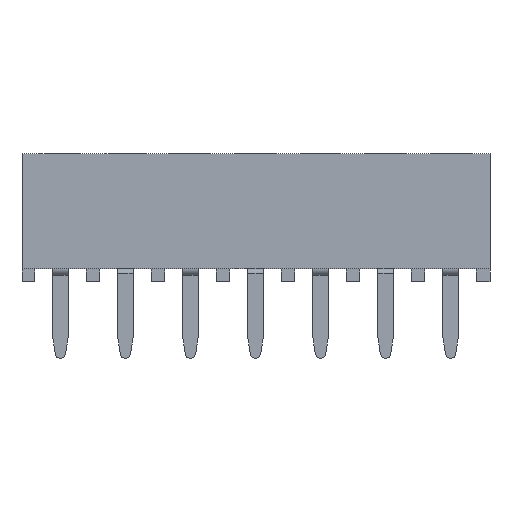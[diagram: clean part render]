
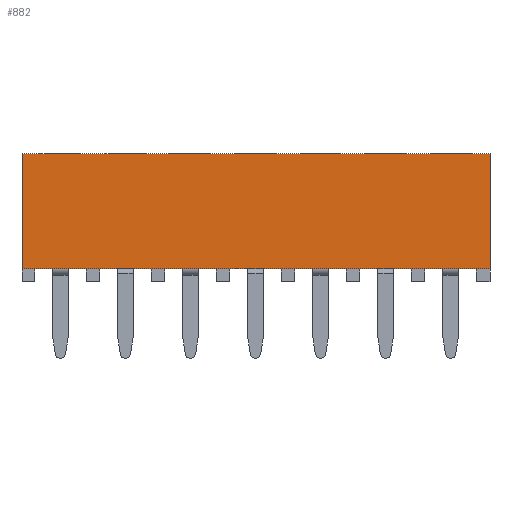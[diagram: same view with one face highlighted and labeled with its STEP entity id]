
A CAD part, front view. The second image highlights one B-rep face of the part: STEP entity #882.
In plain terms, the highlighted planar face has unit normal (0, -1, 0).
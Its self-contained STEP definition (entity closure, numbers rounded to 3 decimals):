
#809=CARTESIAN_POINT('Vertex',(9.14,-1.25,5.)) ;
#812=CARTESIAN_POINT('Line Origine',(9.14,-1.25,2.75)) ;
#816=CARTESIAN_POINT('Vertex',(9.14,-1.25,0.5)) ;
#852=CARTESIAN_POINT('Axis2P3D Location',(0.,-1.25,5.)) ;
#857=CARTESIAN_POINT('Line Origine',(0.,-1.25,5.)) ;
#861=CARTESIAN_POINT('Vertex',(-9.14,-1.25,5.)) ;
#864=CARTESIAN_POINT('Line Origine',(-9.14,-1.25,2.75)) ;
#868=CARTESIAN_POINT('Vertex',(-9.14,-1.25,0.5)) ;
#871=CARTESIAN_POINT('Line Origine',(0.,-1.25,0.5)) ;
#813=DIRECTION('Vector Direction',(0.,0.,-1.)) ;
#853=DIRECTION('Axis2P3D Direction',(0.,-1.,0.)) ;
#854=DIRECTION('Axis2P3D XDirection',(0.,0.,-1.)) ;
#858=DIRECTION('Vector Direction',(1.,0.,0.)) ;
#865=DIRECTION('Vector Direction',(0.,0.,-1.)) ;
#872=DIRECTION('Vector Direction',(1.,0.,0.)) ;
#855=AXIS2_PLACEMENT_3D('Plane Axis2P3D',#852,#853,#854) ;
#877=ORIENTED_EDGE('',*,*,#863,.F.) ;
#878=ORIENTED_EDGE('',*,*,#870,.T.) ;
#879=ORIENTED_EDGE('',*,*,#875,.T.) ;
#880=ORIENTED_EDGE('',*,*,#818,.F.) ;
#814=VECTOR('Line Direction',#813,1.) ;
#859=VECTOR('Line Direction',#858,1.) ;
#866=VECTOR('Line Direction',#865,1.) ;
#873=VECTOR('Line Direction',#872,1.) ;
#882=ADVANCED_FACE('\X2\96F64EF651E04F554F53\X0\',(#881),#856,.T.) ;
#818=EDGE_CURVE('',#810,#817,#815,.T.) ;
#863=EDGE_CURVE('',#862,#810,#860,.T.) ;
#870=EDGE_CURVE('',#862,#869,#867,.T.) ;
#875=EDGE_CURVE('',#869,#817,#874,.T.) ;
#876=EDGE_LOOP('',(#877,#878,#879,#880)) ;
#881=FACE_OUTER_BOUND('',#876,.T.) ;
#815=LINE('Line',#812,#814) ;
#860=LINE('Line',#857,#859) ;
#867=LINE('Line',#864,#866) ;
#874=LINE('Line',#871,#873) ;
#856=PLANE('Plane',#855) ;
#810=VERTEX_POINT('',#809) ;
#817=VERTEX_POINT('',#816) ;
#862=VERTEX_POINT('',#861) ;
#869=VERTEX_POINT('',#868) ;
